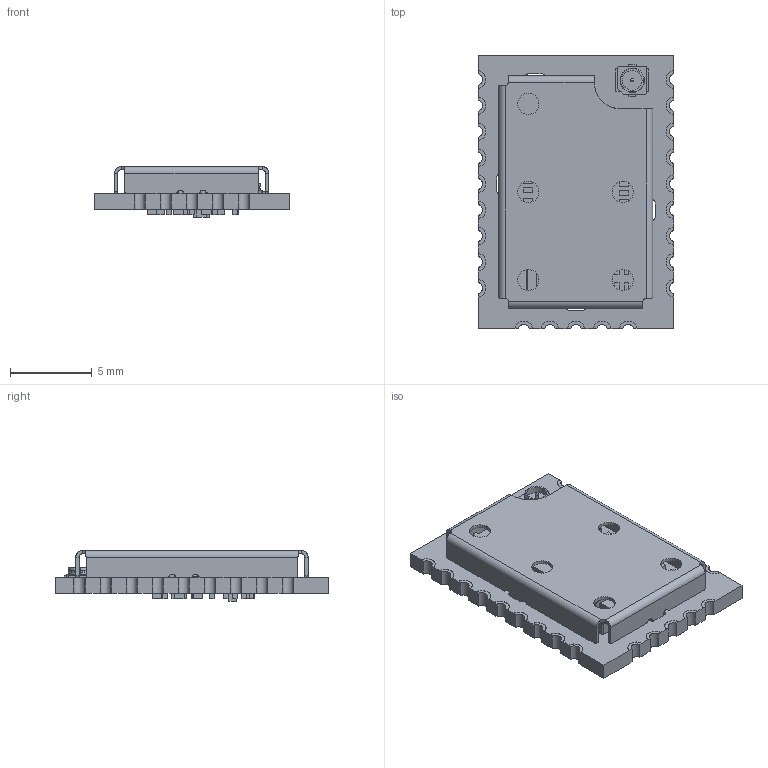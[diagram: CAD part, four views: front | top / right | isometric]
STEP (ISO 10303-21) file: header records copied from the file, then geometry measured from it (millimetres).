
FILE_DESCRIPTION (( 'STEP AP214' ), '1' );
FILE_NAME ('8DEV3300_0004_Red_Bean_A.STEP', '2019-03-28T07:22:04', ( '' ), ( '' ), 'SwSTEP 2.0', 'SolidWorks 2018', '' );
FILE_SCHEMA (( 'AUTOMOTIVE_DESIGN' ));
Length unit declared in the file: millimetre
Products named in the file (1): 8DEV3300_0004_Red_Bean_A
Bounding box: 12 x 16.8 x 3.13 mm (x, y, z)
Volume: 251.2 mm3; surface area: 1018.2 mm2
Topology: 91 solids, 91 shells, 1412 faces, 3436 edges, 2133 vertices
Faces by surface type: plane 1002, cylinder 306, bspline 94, torus 4, cone 4, sphere 2
Entity records: 43276 total; most frequent: CARTESIAN_POINT 8502, ORIENTED_EDGE 6688, DIRECTION 6586, EDGE_CURVE 3344, VECTOR 2716, LINE 2716, VERTEX_POINT 2131, AXIS2_PLACEMENT_3D 1935
